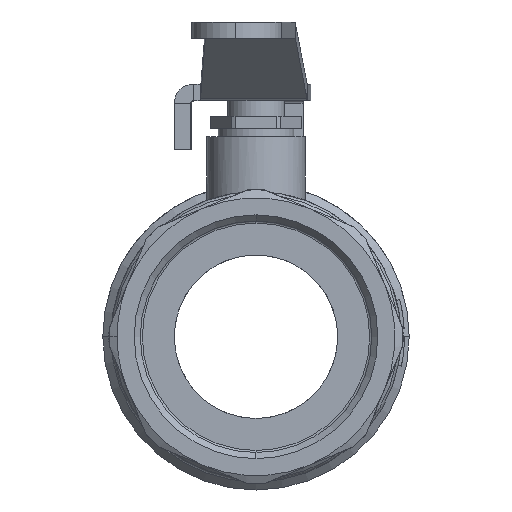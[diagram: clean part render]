
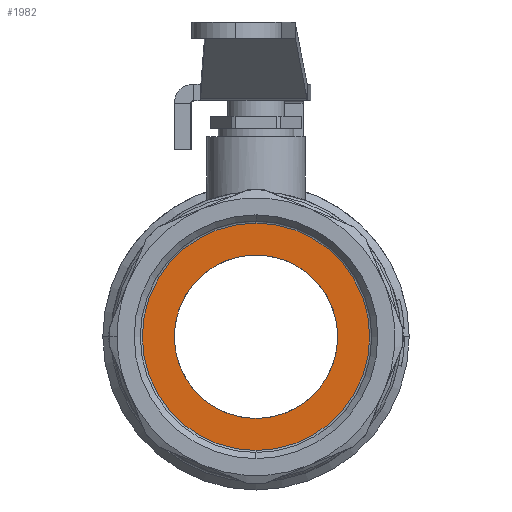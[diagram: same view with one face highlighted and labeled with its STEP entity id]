
A CAD part, left-side view. The second image highlights one B-rep face of the part: STEP entity #1982.
In plain terms, the highlighted planar face has unit normal (-1, 0, 0).
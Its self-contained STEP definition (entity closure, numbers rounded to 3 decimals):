
#302=PLANE('',#7507);
#384=FACE_BOUND('',#2826,.T.);
#385=FACE_BOUND('',#2827,.T.);
#1982=ADVANCED_FACE('',(#384,#385),#302,.T.);
#2826=EDGE_LOOP('',(#4422,#4423));
#2827=EDGE_LOOP('',(#4424,#4425));
#4422=ORIENTED_EDGE('',*,*,#6433,.T.);
#4423=ORIENTED_EDGE('',*,*,#5900,.T.);
#4424=ORIENTED_EDGE('',*,*,#6432,.F.);
#4425=ORIENTED_EDGE('',*,*,#5906,.F.);
#5175=VERTEX_POINT('',#10183);
#5176=VERTEX_POINT('',#10184);
#5181=VERTEX_POINT('',#10195);
#5182=VERTEX_POINT('',#10197);
#5900=EDGE_CURVE('',#5175,#5176,#6798,.T.);
#5906=EDGE_CURVE('',#5181,#5182,#6802,.T.);
#6432=EDGE_CURVE('',#5182,#5181,#6935,.T.);
#6433=EDGE_CURVE('',#5176,#5175,#6936,.T.);
#6798=CIRCLE('',#7224,20.);
#6802=CIRCLE('',#7229,27.828);
#6935=CIRCLE('',#7504,27.828);
#6936=CIRCLE('',#7506,20.);
#7224=AXIS2_PLACEMENT_3D('',#10182,#8186,#8187);
#7229=AXIS2_PLACEMENT_3D('',#10196,#8198,#8199);
#7504=AXIS2_PLACEMENT_3D('',#38908,#8923,#8924);
#7506=AXIS2_PLACEMENT_3D('',#38910,#8927,#8928);
#7507=AXIS2_PLACEMENT_3D('',#38911,#8929,#8930);
#8186=DIRECTION('',(1.,0.,0.));
#8187=DIRECTION('',(0.,0.,1.));
#8198=DIRECTION('',(1.,0.,0.));
#8199=DIRECTION('',(0.,0.,1.));
#8923=DIRECTION('',(1.,0.,0.));
#8924=DIRECTION('',(0.,0.,1.));
#8927=DIRECTION('',(1.,0.,0.));
#8928=DIRECTION('',(0.,0.,1.));
#8929=DIRECTION('',(-1.,0.,0.));
#8930=DIRECTION('',(0.,0.,-1.));
#10182=CARTESIAN_POINT('',(-30.99,0.,-14.584));
#10183=CARTESIAN_POINT('',(-30.99,0.,-34.584));
#10184=CARTESIAN_POINT('',(-30.99,0.,5.416));
#10195=CARTESIAN_POINT('',(-30.99,0.,-42.412));
#10196=CARTESIAN_POINT('',(-30.99,0.,-14.584));
#10197=CARTESIAN_POINT('',(-30.99,0.,13.244));
#38908=CARTESIAN_POINT('',(-30.99,0.,-14.584));
#38910=CARTESIAN_POINT('',(-30.99,0.,-14.584));
#38911=CARTESIAN_POINT('',(-30.99,0.,5.416));
